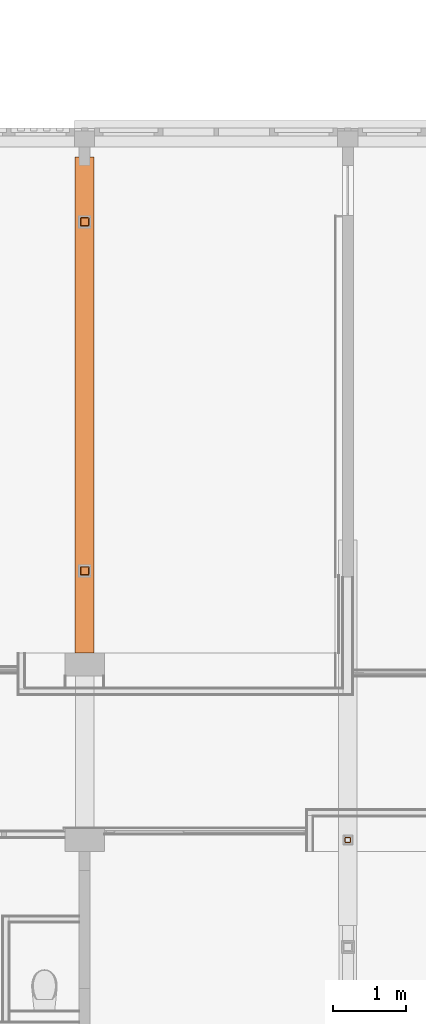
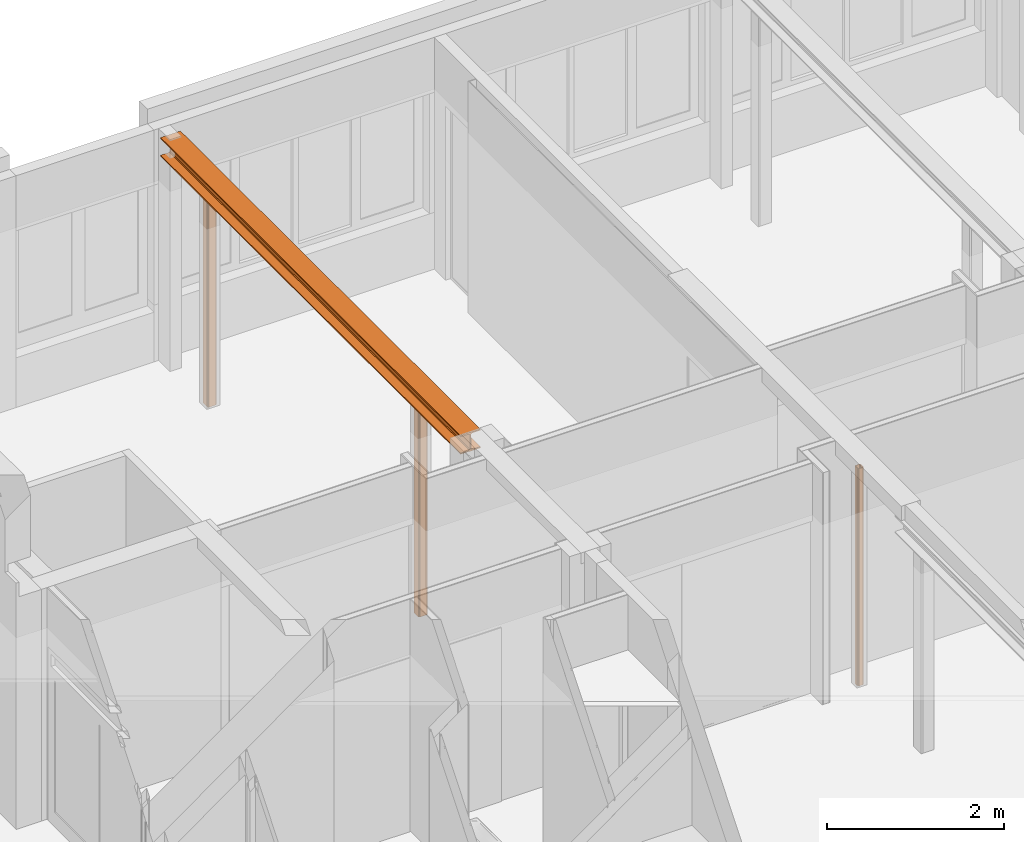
# One storey, part 105 of 117: 4 proxies.
"""IFC2X3 building model written with IfcOpenShell, lengths in millimetres."""

from ifc_helpers import new_model, entity, si_unit, converted_unit, derived_unit, money_unit, direction, frame, origin_with_axes, place, context, subcontext, project, spatial, faceted_brep, source, transform, mapped, material, type_object, type_shapes, element, save


model = new_model("IFC2X3")

# Units and contexts
model_context = context("Model", 3, precision=0.01, world=origin_with_axes(), true_north=direction((0.0, 1.0)))
body_context = subcontext(model_context, "Body", "Model", "MODEL_VIEW")
ifc_project = project(units=[si_unit("LENGTHUNIT", "METRE", prefix="MILLI"), si_unit("AREAUNIT", "SQUARE_METRE"), si_unit("VOLUMEUNIT", "CUBIC_METRE"), converted_unit("PLANEANGLEUNIT", "DEGREE", entity("IfcPlaneAngleMeasure", 0.0174532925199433), si_unit("PLANEANGLEUNIT", "RADIAN"), dimensions=[0, 0, 0, 0, 0, 0, 0]), money_unit("EUR"), converted_unit("TIMEUNIT", "Year", entity("IfcTimeMeasure", 31557600.0), si_unit("TIMEUNIT", "SECOND"), dimensions=[0, 0, 1, 0, 0, 0, 0]), si_unit("MASSUNIT", "GRAM", prefix="KILO"), si_unit("THERMODYNAMICTEMPERATUREUNIT", "DEGREE_CELSIUS"), si_unit("LUMINOUSINTENSITYUNIT", "LUMEN"), si_unit("ENERGYUNIT", "JOULE", prefix="MEGA"), derived_unit("THERMALCONDUCTANCEUNIT", [(si_unit("POWERUNIT", "WATT"), 1), (si_unit("LENGTHUNIT", "METRE"), -1), (si_unit("THERMODYNAMICTEMPERATUREUNIT", "KELVIN"), -1)]), derived_unit("SPECIFICHEATCAPACITYUNIT", [(si_unit("ENERGYUNIT", "JOULE"), 1), (si_unit("MASSUNIT", "GRAM", prefix="KILO"), -1), (si_unit("THERMODYNAMICTEMPERATUREUNIT", "KELVIN"), -1)]), derived_unit("MASSDENSITYUNIT", [(si_unit("MASSUNIT", "GRAM", prefix="KILO"), 1), (si_unit("VOLUMEUNIT", "CUBIC_METRE"), -1)])], contexts=[model_context])

# Site, building, storey
site_placement = place(None, origin_with_axes())
site = spatial("IfcSite", under=ifc_project, at=site_placement, Name="Site", CompositionType="ELEMENT")
building_placement = place(site_placement, origin_with_axes())
building = spatial("IfcBuilding", under=site, at=building_placement, Name="Naam gebouw", CompositionType="ELEMENT")
storey_placement = place(building_placement, frame((0.0, 0.0, 4150.0), z_axis=(0.0, 0.0, 1.0), x_axis=(1.0, 0.0, 0.0)))
storey = spatial("IfcBuildingStorey", under=building, at=storey_placement, Name="1e verdieping N", CompositionType="ELEMENT", Elevation=4150.0)

# Proxies
ifc_material = material(Name="Metaal - Staal AFW")
building_element_proxy_type_1 = type_object("IfcBuildingElementProxyType", Name="HEB balk 27", PredefinedType="NOTDEFINED")
shared_shape_1 = source(origin_with_axes(), body_context, "Body", "Brep", [
    faceted_brep([(0.0, -130.0, 0.0), (-6785.0, -130.0000000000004, 0.0), (-6785.0, 129.9999999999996, 0.0), (0.0, 130.0, 0.0), (0.0, -130.0, 17.5), (-6785.0, -130.0000000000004, 17.50000000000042), (-6785.0, -29.00000000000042, 17.50000000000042), (-6785.0, -17.00000000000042, 20.71539030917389), (-6785.0, -8.21539030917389, 29.50000000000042), (-6785.0, -5.000000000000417, 41.50000000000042), (-6785.0, -5.000000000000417, 218.5000000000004), (-6785.0, -8.215390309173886, 230.5000000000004), (-6785.0, -17.00000000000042, 239.284609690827), (-6785.0, -29.00000000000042, 242.5000000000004), (-6785.0, -130.0000000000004, 242.5000000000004), (-6785.0, -130.0000000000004, 260.0000000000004), (-6785.0, 129.9999999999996, 260.0000000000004), (-6785.0, 129.9999999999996, 242.5000000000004), (-6785.0, 28.99999999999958, 242.5000000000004), (-6785.0, 16.99999999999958, 239.284609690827), (-6785.0, 8.215390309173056, 230.5000000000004), (-6785.0, 4.999999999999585, 218.5000000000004), (-6785.0, 4.999999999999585, 41.50000000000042), (-6785.0, 8.21539030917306, 29.50000000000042), (-6785.0, 16.99999999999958, 20.71539030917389), (-6785.0, 28.99999999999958, 17.50000000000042), (-6785.0, 129.9999999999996, 17.50000000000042), (0.0, 130.0, 17.5), (0.0, 29.0, 17.5), (0.0, 17.0, 20.71539030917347), (0.0, 8.215390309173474, 29.5), (0.0, 5.000000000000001, 41.5), (0.0, 5.000000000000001, 218.5), (0.0, 8.215390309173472, 230.5), (0.0, 17.0, 239.2846096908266), (0.0, 29.0, 242.5), (0.0, 130.0, 242.5), (0.0, 130.0, 260.0), (0.0, -130.0, 260.0), (0.0, -130.0, 242.5), (0.0, -29.0, 242.5), (0.0, -17.0, 239.2846096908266), (0.0, -8.215390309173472, 230.5), (0.0, -5.000000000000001, 218.5), (0.0, -5.000000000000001, 41.5), (0.0, -8.215390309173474, 29.5), (0.0, -17.0, 20.71539030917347), (0.0, -29.0, 17.5)], [[[0, 1, 2, 3]], [[4, 5, 1, 0]], [[1, 5, 6, 7, 8, 9, 10, 11, 12, 13, 14, 15, 16, 17, 18, 19, 20, 21, 22, 23, 24, 25, 26, 2]], [[3, 2, 26, 27]], [[0, 3, 27, 28, 29, 30, 31, 32, 33, 34, 35, 36, 37, 38, 39, 40, 41, 42, 43, 44, 45, 46, 47, 4]], [[47, 6, 5, 4]], [[46, 7, 6, 47]], [[45, 8, 7, 46]], [[44, 9, 8, 45]], [[43, 10, 9, 44]], [[42, 11, 10, 43]], [[41, 12, 11, 42]], [[40, 13, 12, 41]], [[39, 14, 13, 40]], [[38, 15, 14, 39]], [[37, 16, 15, 38]], [[36, 17, 16, 37]], [[35, 18, 17, 36]], [[34, 19, 18, 35]], [[33, 20, 19, 34]], [[32, 21, 20, 33]], [[31, 22, 21, 32]], [[30, 23, 22, 31]], [[29, 24, 23, 30]], [[28, 25, 24, 29]], [[27, 26, 25, 28]]]),
])
type_shapes(building_element_proxy_type_1, [shared_shape_1])
proxy_1_placement = place(storey_placement, frame((35999.99999999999, 20580.91242510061, 2920.000000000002), z_axis=(0.0, 0.0, 1.0), x_axis=(0.0, -1.0, 0.0)))
element("IfcBuildingElementProxy", 1, at=proxy_1_placement, inside=storey, type_object=building_element_proxy_type_1, material=ifc_material, Name="_Boom-x", context=body_context, shape_type="MappedRepresentation", body=[
    mapped(shared_shape_1, transform((0.0, 0.0, 0.0))),
])
building_element_proxy_type_2 = type_object("IfcBuildingElementProxyType", Name="Buis vk warmgew kolom 27", PredefinedType="NOTDEFINED")
shared_shape_2 = source(origin_with_axes(), body_context, "Body", "Brep", [
    faceted_brep([(24.0, -40.0, 0.0), (24.0, -40.0, 3000.0), (-24.0, -40.0, 3000.0), (-24.0, -40.0, 0.0), (35.31370849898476, -35.31370849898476, 0.0), (35.31370849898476, -35.31370849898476, 3000.0), (40.0, -24.0, 3000.0), (40.00000000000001, 24.0, 3000.0), (35.31370849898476, 35.31370849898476, 3000.0), (24.0, 40.0, 3000.0), (-24.0, 40.00000000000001, 3000.0), (-35.31370849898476, 35.31370849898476, 3000.0), (-40.0, 24.0, 3000.0), (-40.0, -24.0, 3000.0), (-35.31370849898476, -35.31370849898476, 3000.0), (24.0, -32.0, 3000.0), (-24.0, -32.0, 3000.0), (-29.65685424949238, -29.65685424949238, 3000.0), (-32.0, -24.0, 3000.0), (-32.0, 24.0, 3000.0), (-29.65685424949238, 29.65685424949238, 3000.0), (-24.0, 32.0, 3000.0), (24.0, 32.0, 3000.0), (29.65685424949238, 29.65685424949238, 3000.0), (32.0, 24.0, 3000.0), (32.0, -24.0, 3000.0), (29.65685424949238, -29.65685424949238, 3000.0), (-35.31370849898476, -35.31370849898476, 0.0), (-40.0, -24.0, 0.0), (-40.0, 24.0, 0.0), (-35.31370849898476, 35.31370849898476, 0.0), (-24.0, 40.00000000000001, 0.0), (24.0, 40.0, 0.0), (35.31370849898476, 35.31370849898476, 0.0), (40.00000000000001, 24.0, 0.0), (40.0, -24.0, 0.0), (24.0, -32.0, 0.0), (29.65685424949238, -29.65685424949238, 0.0), (32.0, -24.0, 0.0), (32.0, 24.0, 0.0), (29.65685424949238, 29.65685424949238, 0.0), (24.0, 32.0, 0.0), (-24.0, 32.0, 0.0), (-29.65685424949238, 29.65685424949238, 0.0), (-32.0, 24.0, 0.0), (-32.0, -24.0, 0.0), (-29.65685424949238, -29.65685424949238, 0.0), (-24.0, -32.0, 0.0)], [[[0, 1, 2, 3]], [[4, 5, 1, 0]], [[1, 5, 6, 7, 8, 9, 10, 11, 12, 13, 14, 2], [15, 16, 17, 18, 19, 20, 21, 22, 23, 24, 25, 26]], [[3, 2, 14, 27]], [[0, 3, 27, 28, 29, 30, 31, 32, 33, 34, 35, 4], [36, 37, 38, 39, 40, 41, 42, 43, 44, 45, 46, 47]], [[35, 6, 5, 4]], [[34, 7, 6, 35]], [[33, 8, 7, 34]], [[32, 9, 8, 33]], [[31, 10, 9, 32]], [[30, 11, 10, 31]], [[29, 12, 11, 30]], [[28, 13, 12, 29]], [[27, 14, 13, 28]], [[47, 16, 15, 36]], [[46, 17, 16, 47]], [[45, 18, 17, 46]], [[44, 19, 18, 45]], [[43, 20, 19, 44]], [[42, 21, 20, 43]], [[41, 22, 21, 42]], [[40, 23, 22, 41]], [[39, 24, 23, 40]], [[38, 25, 24, 39]], [[37, 26, 25, 38]], [[36, 15, 26, 37]]]),
])
proxy_2_placement = place(storey_placement, frame((39599.99999999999, 18025.91242510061, 0.0), z_axis=(0.0, 0.0, 1.0), x_axis=(0.0, -1.0, 0.0)))
element("IfcBuildingElementProxy", 2, at=proxy_2_placement, inside=storey, type_object=building_element_proxy_type_2, material=ifc_material, Name="_Boom-x", context=body_context, shape_type="MappedRepresentation", body=[
    mapped(shared_shape_2, transform((0.0, 0.0, 0.0))),
])
shared_shape_3 = source(origin_with_axes(), body_context, "Body", "Brep", [
    faceted_brep([(47.4, -60.0, 0.0), (47.4, -60.0, 2920.000000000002), (-47.4, -60.0, 2920.000000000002), (-47.4, -60.0, 0.0), (56.3095454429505, -56.3095454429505, 0.0), (56.3095454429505, -56.3095454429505, 2920.000000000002), (60.0, -47.4, 2920.000000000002), (60.0, 47.4, 2920.000000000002), (56.3095454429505, 56.3095454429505, 2920.000000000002), (47.4, 60.0, 2920.000000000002), (-47.4, 60.0, 2920.000000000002), (-56.3095454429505, 56.3095454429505, 2920.000000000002), (-60.0, 47.4, 2920.000000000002), (-60.0, -47.4, 2920.000000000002), (-56.3095454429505, -56.3095454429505, 2920.000000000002), (47.4, -53.7, 2920.000000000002), (-47.4, -53.7, 2920.000000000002), (-51.85477272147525, -51.85477272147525, 2920.000000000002), (-53.7, -47.4, 2920.000000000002), (-53.7, 47.4, 2920.000000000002), (-51.85477272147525, 51.85477272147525, 2920.000000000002), (-47.4, 53.7, 2920.000000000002), (47.4, 53.7, 2920.000000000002), (51.85477272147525, 51.85477272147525, 2920.000000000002), (53.7, 47.4, 2920.000000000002), (53.7, -47.4, 2920.000000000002), (51.85477272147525, -51.85477272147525, 2920.000000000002), (-56.3095454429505, -56.3095454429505, 0.0), (-60.0, -47.4, 0.0), (-60.0, 47.4, 0.0), (-56.3095454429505, 56.3095454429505, 0.0), (-47.4, 60.0, 0.0), (47.4, 60.0, 0.0), (56.3095454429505, 56.3095454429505, 0.0), (60.0, 47.4, 0.0), (60.0, -47.4, 0.0), (47.4, -53.7, 0.0), (51.85477272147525, -51.85477272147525, 0.0), (53.7, -47.4, 0.0), (53.7, 47.4, 0.0), (51.85477272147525, 51.85477272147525, 0.0), (47.4, 53.7, 0.0), (-47.4, 53.7, 0.0), (-51.85477272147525, 51.85477272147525, 0.0), (-53.7, 47.4, 0.0), (-53.7, -47.4, 0.0), (-51.85477272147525, -51.85477272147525, 0.0), (-47.4, -53.7, 0.0)], [[[0, 1, 2, 3]], [[4, 5, 1, 0]], [[1, 5, 6, 7, 8, 9, 10, 11, 12, 13, 14, 2], [15, 16, 17, 18, 19, 20, 21, 22, 23, 24, 25, 26]], [[3, 2, 14, 27]], [[0, 3, 27, 28, 29, 30, 31, 32, 33, 34, 35, 4], [36, 37, 38, 39, 40, 41, 42, 43, 44, 45, 46, 47]], [[35, 6, 5, 4]], [[34, 7, 6, 35]], [[33, 8, 7, 34]], [[32, 9, 8, 33]], [[31, 10, 9, 32]], [[30, 11, 10, 31]], [[29, 12, 11, 30]], [[28, 13, 12, 29]], [[27, 14, 13, 28]], [[47, 16, 15, 36]], [[46, 17, 16, 47]], [[45, 18, 17, 46]], [[44, 19, 18, 45]], [[43, 20, 19, 44]], [[42, 21, 20, 43]], [[41, 22, 21, 42]], [[40, 23, 22, 41]], [[39, 24, 23, 40]], [[38, 25, 24, 39]], [[37, 26, 25, 38]], [[36, 15, 26, 37]]]),
])
type_shapes(building_element_proxy_type_2, [shared_shape_2, shared_shape_3])
for number, where, z_axis, x_axis, name in (
    (3, (36000.0, 26480.91242510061, 0.0), (0.0, 0.0, 1.0), (0.0, -1.0, 0.0), "_Boom-x"),
    (4, (36000.0, 21705.91242510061, 0.0), (0.0, 0.0, 1.0), (0.0, -1.0, 0.0), "_Boom-x"),
):
    element("IfcBuildingElementProxy", number, at=place(storey_placement, frame(where, z_axis=z_axis, x_axis=x_axis)), inside=storey, type_object=building_element_proxy_type_2, material=ifc_material, Name=name, context=body_context, shape_type="MappedRepresentation", body=[
        mapped(shared_shape_3, transform((0.0, 0.0, 0.0))),
    ])

save(model, "model.ifc")
